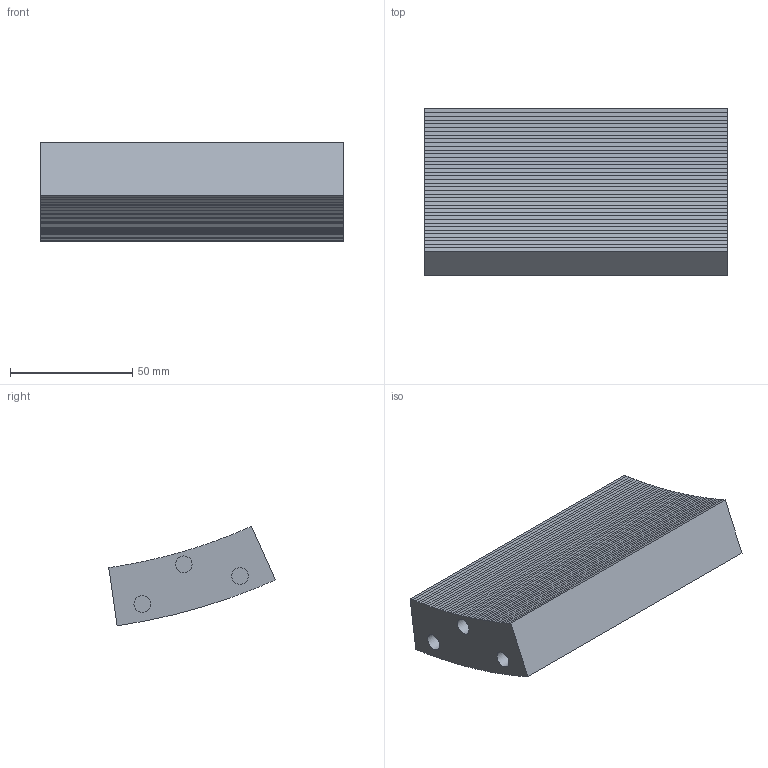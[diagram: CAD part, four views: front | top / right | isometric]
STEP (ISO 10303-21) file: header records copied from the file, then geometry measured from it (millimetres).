
FILE_DESCRIPTION(('Open CASCADE Model'),'2;1');
FILE_NAME('Open CASCADE Shape Model','2026-10-18T22:58:49',('Author'),( 'Open CASCADE'),'Open CASCADE STEP processor 7.9','Open CASCADE 7.9' ,'Unknown');
FILE_SCHEMA(('AUTOMOTIVE_DESIGN { 1 0 10303 214 1 1 1 1 }'));
Length unit declared in the file: millimetre
Products named in the file (1): Open CASCADE STEP translator 7.9 44
Bounding box: 124 x 68.2 x 40.65 mm (x, y, z)
Volume: 188739.5 mm3; surface area: 26572.7 mm2
Topology: 1 solids, 1 shells, 94 faces, 258 edges, 172 vertices
Faces by surface type: plane 88, cylinder 6
Full cylindrical faces by diameter (mm): 6.8 x6
Entity records: 6307 total; most frequent: CARTESIAN_POINT 1059, DIRECTION 973, LINE 750, VECTOR 750, ORIENTED_EDGE 516, PCURVE 516, DEFINITIONAL_REPRESENTATION 516, EDGE_CURVE 258
